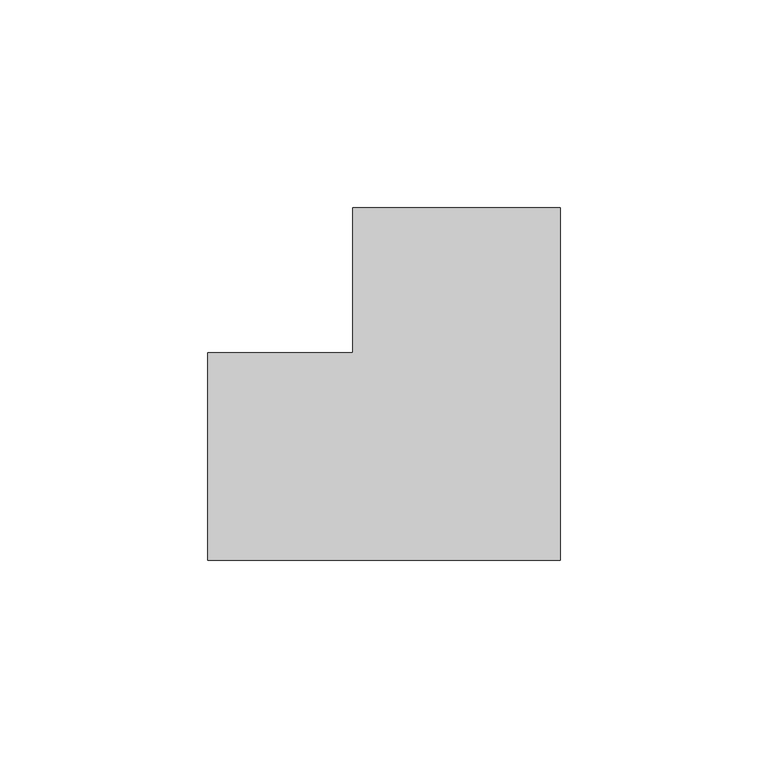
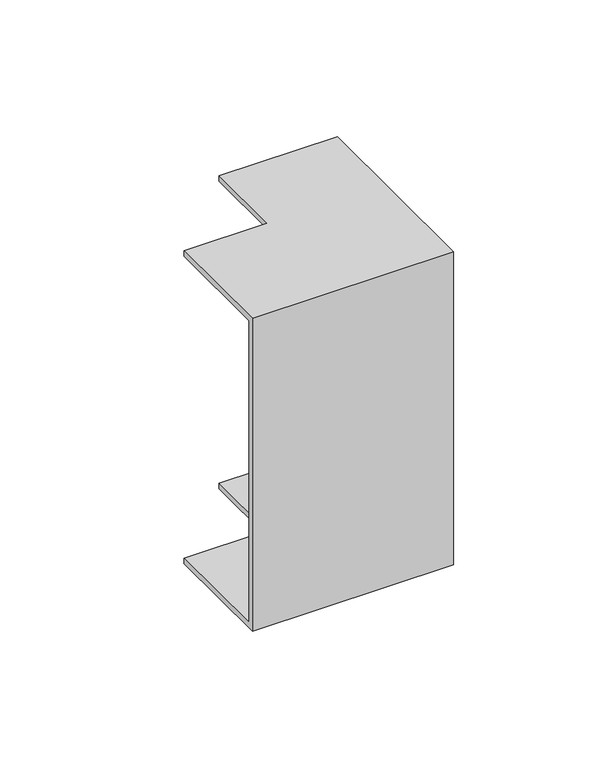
"""IFC4 building model written with IfcOpenShell, lengths in millimetres: cable carrier fitting geometry, КНС_УголВнутренний_ILF_DKC : Белый."""

from ifc_helpers import new_model, si_unit, origin, place, context, project, spatial, faceted_brep, source, transform, mapped, element, save


def cable_carrier_fitting_454d221a(model_context):
    return source(origin(), model_context, "Body", "Brep", [
        faceted_brep([(-60.0, -25.0, 70.0), (-60.0, 25.0, 70.0), (-60.0, 25.0, 67.5), (-60.0, -22.5, 67.5), (-60.0, -22.5, -67.5), (-60.0, 25.0, -67.5), (-60.0, 25.0, -70.0), (-60.0, -25.0, -70.0), (25.0, 60.0, 70.0), (25.0, 60.0, -70.0), (-25.0, 60.0, -70.0), (-25.0, 60.0, -67.5), (22.5, 60.0, -67.5), (22.5, 60.0, 67.5), (-25.0, 60.0, 67.5), (-25.0, 60.0, 70.0), (25.0, -25.0, 70.0), (-25.0, 25.0, 70.0), (-25.0, 25.0, 67.5), (22.5, -22.5, 67.5), (22.5, -22.5, -67.5), (-25.0, 25.0, -67.5), (-25.0, 25.0, -70.0), (25.0, -25.0, -70.0)], [[[0, 1, 2, 3, 4, 5, 6, 7]], [[8, 9, 10, 11, 12, 13, 14, 15]], [[1, 0, 16, 8, 15, 17]], [[2, 1, 17, 18]], [[3, 2, 18, 14, 13, 19]], [[4, 3, 19, 20]], [[5, 4, 20, 12, 11, 21]], [[6, 5, 21, 22]], [[7, 6, 22, 10, 9, 23]], [[0, 7, 23, 16]], [[18, 17, 15, 14]], [[20, 19, 13, 12]], [[22, 21, 11, 10]], [[16, 23, 9, 8]]]),
    ])


if __name__ == "__main__":
    model = new_model("IFC4")
    model_context = context("Model", 3, world=origin())
    ifc_project = project(units=[si_unit("LENGTHUNIT", "METRE", prefix="MILLI")], contexts=[model_context])
    site = spatial("IfcSite", under=ifc_project)
    building = spatial("IfcBuilding", under=site)
    placement = place(None, origin())
    cable_carrier_fitting_shape = cable_carrier_fitting_454d221a(model_context)
    element("IfcCableCarrierFitting", 1, ObjectType="КНС_УголВнутренний_ILF_DKC : Белый", at=placement, inside=building, context=model_context, shape_type="MappedRepresentation", body=[
        mapped(cable_carrier_fitting_shape, transform((0.0, 0.0, 0.0), x_axis=(1.0, 0.0, 0.0), y_axis=(0.0, 1.0, 0.0), z_axis=(0.0, 0.0, 1.0))),
    ])
    save(model, "model.ifc")
